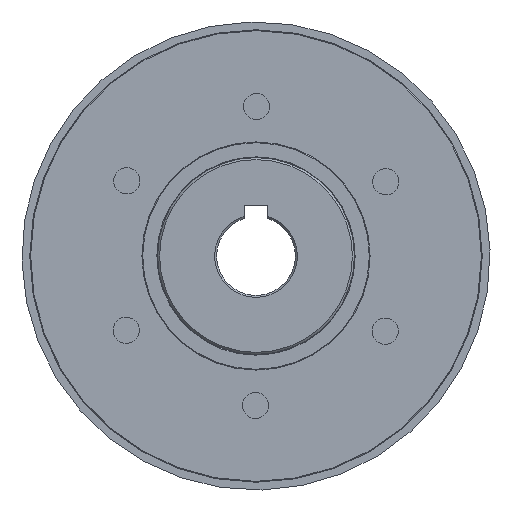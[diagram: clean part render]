
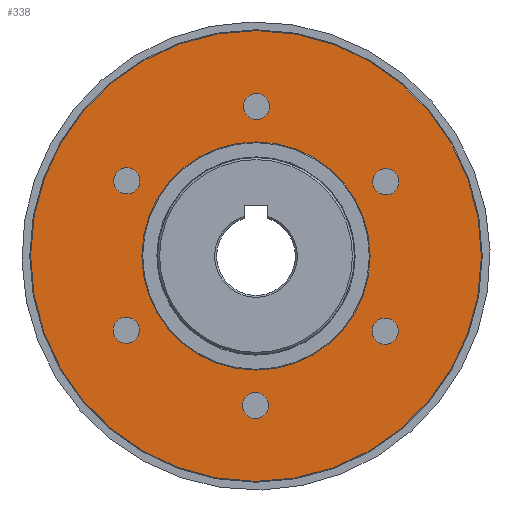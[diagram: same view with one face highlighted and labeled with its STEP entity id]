
A CAD part, left-side view. The second image highlights one B-rep face of the part: STEP entity #338.
In plain terms, the highlighted planar face has unit normal (-1, 0, 0).
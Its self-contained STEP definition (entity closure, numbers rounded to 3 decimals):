
#338 = ADVANCED_FACE( '', ( #686, #687, #688, #689, #690, #691, #692, #693 ), #694, .T. );
#686 = FACE_BOUND( '', #1035, .T. );
#687 = FACE_BOUND( '', #1036, .T. );
#688 = FACE_BOUND( '', #1037, .T. );
#689 = FACE_BOUND( '', #1038, .T. );
#690 = FACE_BOUND( '', #1039, .T. );
#691 = FACE_BOUND( '', #1040, .T. );
#692 = FACE_OUTER_BOUND( '', #1041, .T. );
#693 = FACE_BOUND( '', #1042, .T. );
#694 = PLANE( '', #1043 );
#1035 = EDGE_LOOP( '', ( #1494 ) );
#1036 = EDGE_LOOP( '', ( #1495 ) );
#1037 = EDGE_LOOP( '', ( #1496 ) );
#1038 = EDGE_LOOP( '', ( #1497 ) );
#1039 = EDGE_LOOP( '', ( #1498 ) );
#1040 = EDGE_LOOP( '', ( #1499 ) );
#1041 = EDGE_LOOP( '', ( #1500 ) );
#1042 = EDGE_LOOP( '', ( #1501 ) );
#1043 = AXIS2_PLACEMENT_3D( '', #1502, #1503, #1504 );
#1494 = ORIENTED_EDGE( '', *, *, #1746, .T. );
#1495 = ORIENTED_EDGE( '', *, *, #1616, .T. );
#1496 = ORIENTED_EDGE( '', *, *, #1725, .T. );
#1497 = ORIENTED_EDGE( '', *, *, #1734, .T. );
#1498 = ORIENTED_EDGE( '', *, *, #1762, .T. );
#1499 = ORIENTED_EDGE( '', *, *, #1646, .T. );
#1500 = ORIENTED_EDGE( '', *, *, #1748, .T. );
#1501 = ORIENTED_EDGE( '', *, *, #1763, .F. );
#1502 = CARTESIAN_POINT( '', ( 27.5, 0., 29. ) );
#1503 = DIRECTION( '', ( -1., 0., 0. ) );
#1504 = DIRECTION( '', ( 0., 0., 1. ) );
#1616 = EDGE_CURVE( '', #1789, #1789, #1790, .T. );
#1646 = EDGE_CURVE( '', #1839, #1839, #1840, .T. );
#1725 = EDGE_CURVE( '', #1962, #1962, #1963, .T. );
#1734 = EDGE_CURVE( '', #1976, #1976, #1977, .T. );
#1746 = EDGE_CURVE( '', #1992, #1992, #1993, .T. );
#1748 = EDGE_CURVE( '', #1995, #1995, #1996, .T. );
#1762 = EDGE_CURVE( '', #2013, #2013, #2014, .T. );
#1763 = EDGE_CURVE( '', #2015, #2015, #2016, .T. );
#1789 = VERTEX_POINT( '', #2046 );
#1790 = CIRCLE( '', #2047, 3.324 );
#1839 = VERTEX_POINT( '', #2211 );
#1840 = CIRCLE( '', #2212, 3.324 );
#1962 = VERTEX_POINT( '', #2572 );
#1963 = CIRCLE( '', #2573, 3.324 );
#1976 = VERTEX_POINT( '', #2586 );
#1977 = CIRCLE( '', #2587, 3.324 );
#1992 = VERTEX_POINT( '', #2605 );
#1993 = CIRCLE( '', #2606, 3.324 );
#1995 = VERTEX_POINT( '', #2608 );
#1996 = CIRCLE( '', #2609, 57.3 );
#2013 = VERTEX_POINT( '', #2626 );
#2014 = CIRCLE( '', #2627, 3.324 );
#2015 = VERTEX_POINT( '', #2628 );
#2016 = CIRCLE( '', #2629, 29. );
#2046 = CARTESIAN_POINT( '', ( 27.5, 35.787, -20.662 ) );
#2047 = AXIS2_PLACEMENT_3D( '', #2660, #2661, #2662 );
#2211 = CARTESIAN_POINT( '', ( 27.5, 0., 41.324 ) );
#2212 = AXIS2_PLACEMENT_3D( '', #2708, #2709, #2710 );
#2572 = CARTESIAN_POINT( '', ( 27.5, 0., -41.324 ) );
#2573 = AXIS2_PLACEMENT_3D( '', #2821, #2822, #2823 );
#2586 = CARTESIAN_POINT( '', ( 27.5, -35.787, -20.662 ) );
#2587 = AXIS2_PLACEMENT_3D( '', #2836, #2837, #2838 );
#2605 = CARTESIAN_POINT( '', ( 27.5, 35.787, 20.662 ) );
#2606 = AXIS2_PLACEMENT_3D( '', #2848, #2849, #2850 );
#2608 = CARTESIAN_POINT( '', ( 27.5, 0., 57.3 ) );
#2609 = AXIS2_PLACEMENT_3D( '', #2851, #2852, #2853 );
#2626 = CARTESIAN_POINT( '', ( 27.5, -35.787, 20.662 ) );
#2627 = AXIS2_PLACEMENT_3D( '', #2866, #2867, #2868 );
#2628 = CARTESIAN_POINT( '', ( 27.5, 0., 29. ) );
#2629 = AXIS2_PLACEMENT_3D( '', #2869, #2870, #2871 );
#2660 = CARTESIAN_POINT( '', ( 27.5, 32.909, -19. ) );
#2661 = DIRECTION( '', ( 1., 0., 0. ) );
#2662 = DIRECTION( '', ( 0., 0.866, -0.5 ) );
#2708 = CARTESIAN_POINT( '', ( 27.5, 0., 38. ) );
#2709 = DIRECTION( '', ( 1., 0., 0. ) );
#2710 = DIRECTION( '', ( 0., 0., 1. ) );
#2821 = CARTESIAN_POINT( '', ( 27.5, 0., -38. ) );
#2822 = DIRECTION( '', ( 1., 0., 0. ) );
#2823 = DIRECTION( '', ( 0., 0., -1. ) );
#2836 = CARTESIAN_POINT( '', ( 27.5, -32.909, -19. ) );
#2837 = DIRECTION( '', ( 1., 0., 0. ) );
#2838 = DIRECTION( '', ( 0., -0.866, -0.5 ) );
#2848 = CARTESIAN_POINT( '', ( 27.5, 32.909, 19. ) );
#2849 = DIRECTION( '', ( 1., 0., 0. ) );
#2850 = DIRECTION( '', ( 0., 0.866, 0.5 ) );
#2851 = CARTESIAN_POINT( '', ( 27.5, 0., 0. ) );
#2852 = DIRECTION( '', ( -1., 0., 0. ) );
#2853 = DIRECTION( '', ( 0., 0., 1. ) );
#2866 = CARTESIAN_POINT( '', ( 27.5, -32.909, 19. ) );
#2867 = DIRECTION( '', ( 1., 0., 0. ) );
#2868 = DIRECTION( '', ( 0., -0.866, 0.5 ) );
#2869 = CARTESIAN_POINT( '', ( 27.5, 0., 0. ) );
#2870 = DIRECTION( '', ( -1., 0., 0. ) );
#2871 = DIRECTION( '', ( 0., 0., 1. ) );
